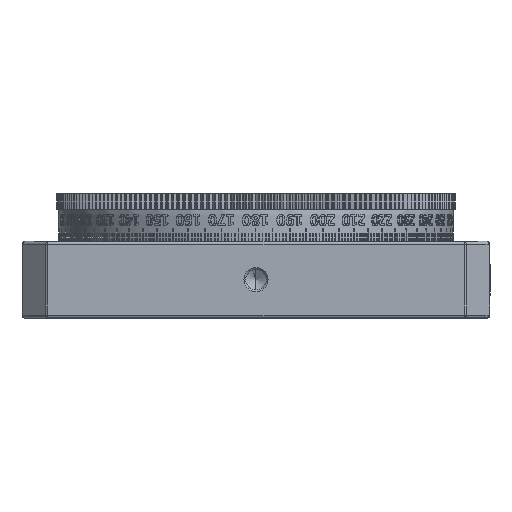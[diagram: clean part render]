
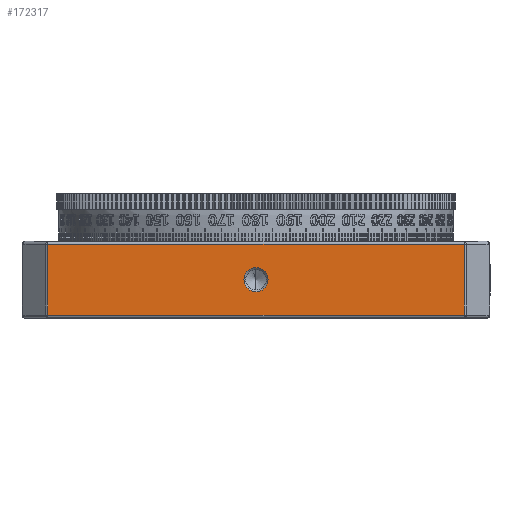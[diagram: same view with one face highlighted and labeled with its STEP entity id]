
A CAD part, front view. The second image highlights one B-rep face of the part: STEP entity #172317.
In plain terms, the highlighted planar face has unit normal (0, -1, 0).
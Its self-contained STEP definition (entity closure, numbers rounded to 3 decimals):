
#7144 = VERTEX_POINT ( 'NONE', #82655 ) ;
#11299 = AXIS2_PLACEMENT_3D ( 'NONE', #110457, #22841, #92345 ) ;
#12506 = DIRECTION ( 'NONE',  ( 0., 0., 1. ) ) ;
#21016 = DIRECTION ( 'NONE',  ( 1., 0., 0. ) ) ;
#22841 = DIRECTION ( 'NONE',  ( 0., 1., 0. ) ) ;
#24406 = CIRCLE ( 'NONE', #108846, 1.95 ) ;
#26463 = CARTESIAN_POINT ( 'NONE',  ( 34., -38., -5.75 ) ) ;
#31925 = DIRECTION ( 'NONE',  ( 0., 1., 0. ) ) ;
#35148 = CARTESIAN_POINT ( 'NONE',  ( -33.793, -38., 6.25 ) ) ;
#35950 = ORIENTED_EDGE ( 'NONE', *, *, #97258, .T. ) ;
#52700 = VERTEX_POINT ( 'NONE', #146578 ) ;
#54226 = CARTESIAN_POINT ( 'NONE',  ( 0., -38., 0. ) ) ;
#55428 = CARTESIAN_POINT ( 'NONE',  ( 0., -38., 1.95 ) ) ;
#58081 = EDGE_CURVE ( 'NONE', #237969, #236383, #229303, .T. ) ;
#63625 = EDGE_LOOP ( 'NONE', ( #72627, #239011 ) ) ;
#72627 = ORIENTED_EDGE ( 'NONE', *, *, #242021, .T. ) ;
#82655 = CARTESIAN_POINT ( 'NONE',  ( -33.793, -38., -5.75 ) ) ;
#83389 = VERTEX_POINT ( 'NONE', #123746 ) ;
#92345 = DIRECTION ( 'NONE',  ( 0., 0., 1. ) ) ;
#97258 = EDGE_CURVE ( 'NONE', #236383, #7144, #206377, .T. ) ;
#101909 = DIRECTION ( 'NONE',  ( 0., 0., -1. ) ) ;
#104600 = VERTEX_POINT ( 'NONE', #55428 ) ;
#108846 = AXIS2_PLACEMENT_3D ( 'NONE', #54226, #31925, #139122 ) ;
#110457 = CARTESIAN_POINT ( 'NONE',  ( 0., -38., 0. ) ) ;
#114139 = DIRECTION ( 'NONE',  ( 0., 1., 0. ) ) ;
#119715 = CARTESIAN_POINT ( 'NONE',  ( 33.793, -38., 5.75 ) ) ;
#123746 = CARTESIAN_POINT ( 'NONE',  ( 33.793, -38., -5.75 ) ) ;
#132268 = LINE ( 'NONE', #26463, #264217 ) ;
#139122 = DIRECTION ( 'NONE',  ( 0., 0., 1. ) ) ;
#142308 = LINE ( 'NONE', #181371, #215693 ) ;
#146025 = AXIS2_PLACEMENT_3D ( 'NONE', #203228, #114139, #12506 ) ;
#146578 = CARTESIAN_POINT ( 'NONE',  ( 0., -38., -1.95 ) ) ;
#148976 = CIRCLE ( 'NONE', #11299, 1.95 ) ;
#159421 = ORIENTED_EDGE ( 'NONE', *, *, #258314, .T. ) ;
#168836 = EDGE_CURVE ( 'NONE', #7144, #83389, #132268, .T. ) ;
#170731 = DIRECTION ( 'NONE',  ( -1., 0., 0. ) ) ;
#172317 = ADVANCED_FACE ( 'NONE', ( #179588, #267297 ), #180965, .F. ) ;
#179588 = FACE_OUTER_BOUND ( 'NONE', #247539, .T. ) ;
#180965 = PLANE ( 'NONE',  #146025 ) ;
#181371 = CARTESIAN_POINT ( 'NONE',  ( 33.793, -38., 6.25 ) ) ;
#203228 = CARTESIAN_POINT ( 'NONE',  ( 34., -38., 6.25 ) ) ;
#205381 = VECTOR ( 'NONE', #101909, 1000. ) ;
#206377 = LINE ( 'NONE', #35148, #205381 ) ;
#214812 = VECTOR ( 'NONE', #170731, 1000. ) ;
#215693 = VECTOR ( 'NONE', #224550, 1000. ) ;
#224550 = DIRECTION ( 'NONE',  ( 0., 0., 1. ) ) ;
#229303 = LINE ( 'NONE', #230668, #214812 ) ;
#230668 = CARTESIAN_POINT ( 'NONE',  ( -34., -38., 5.75 ) ) ;
#236383 = VERTEX_POINT ( 'NONE', #262452 ) ;
#237969 = VERTEX_POINT ( 'NONE', #119715 ) ;
#239011 = ORIENTED_EDGE ( 'NONE', *, *, #273939, .T. ) ;
#241778 = ORIENTED_EDGE ( 'NONE', *, *, #58081, .T. ) ;
#242021 = EDGE_CURVE ( 'NONE', #52700, #104600, #24406, .T. ) ;
#247539 = EDGE_LOOP ( 'NONE', ( #241778, #35950, #250340, #159421 ) ) ;
#250340 = ORIENTED_EDGE ( 'NONE', *, *, #168836, .T. ) ;
#258314 = EDGE_CURVE ( 'NONE', #83389, #237969, #142308, .T. ) ;
#262452 = CARTESIAN_POINT ( 'NONE',  ( -33.793, -38., 5.75 ) ) ;
#264217 = VECTOR ( 'NONE', #21016, 1000. ) ;
#267297 = FACE_BOUND ( 'NONE', #63625, .T. ) ;
#273939 = EDGE_CURVE ( 'NONE', #104600, #52700, #148976, .T. ) ;
